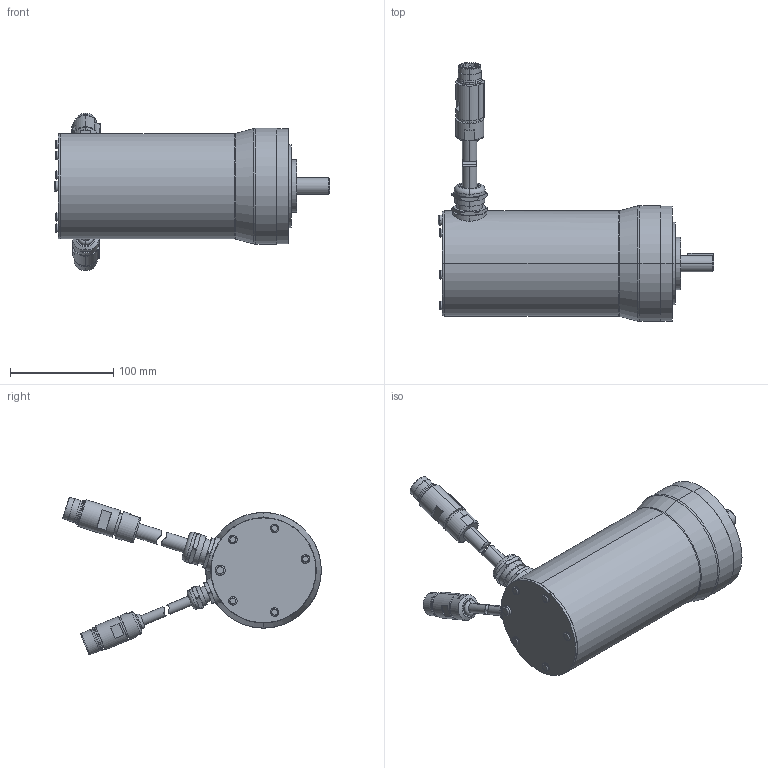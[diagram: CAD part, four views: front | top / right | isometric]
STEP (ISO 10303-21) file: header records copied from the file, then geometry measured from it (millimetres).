
FILE_DESCRIPTION (( 'STEP AP214' ), '1' );
FILE_NAME ('Rockwell Automation-MPS-x330x-xJ54DA.STEP', '2015-07-07T20:54:56', ( 'Windows User' ), ( '' ), 'SwSTEP 2.0', 'SolidWorks 2015', '' );
FILE_SCHEMA (( 'AUTOMOTIVE_DESIGN' ));
Length unit declared in the file: inch
Products named in the file (5): Rockwell Automation-MPS-x330x-xJ54DA; Rockwell Automation-MPS-x330x-xJ54DA_MPS-xxxx-Feedback Connector; Rockwell Automation-MPS-x330x-xJ54DA_MPS-xxxx-Power Connector; Rockwell Automation-MPS-x330x-xJ54DA_MPS-3xx-Shaft-Key_Shaft-A330-Key-Brake; Rockwell Automation-MPS-x330x-xJ54DA_MPS-3xx-Body_Body-A330-Brake
Assembly tree (4 placements, depth 2):
  Rockwell Automation-MPS-x330x-xJ54DA
    Rockwell Automation-MPS-x330x-xJ54DA_MPS-3xx-Body_Body-A330-Brake
    Rockwell Automation-MPS-x330x-xJ54DA_MPS-3xx-Shaft-Key_Shaft-A330-Key-Brake
    Rockwell Automation-MPS-x330x-xJ54DA_MPS-xxxx-Power Connector
    Rockwell Automation-MPS-x330x-xJ54DA_MPS-xxxx-Feedback Connector
Bounding box: 266.32 x 250.25 x 152.12 mm (x, y, z)
Volume: 1210208.6 mm3; surface area: 241428.1 mm2
Topology: 15 solids, 15 shells, 543 faces, 1284 edges, 815 vertices
Faces by surface type: cylinder 263, plane 146, cone 77, torus 44, sphere 13
Entity records: 17806 total; most frequent: CARTESIAN_POINT 4103, DIRECTION 2743, ORIENTED_EDGE 2444, EDGE_CURVE 1222, AXIS2_PLACEMENT_3D 1150, VERTEX_POINT 789, EDGE_LOOP 637, CIRCLE 600
